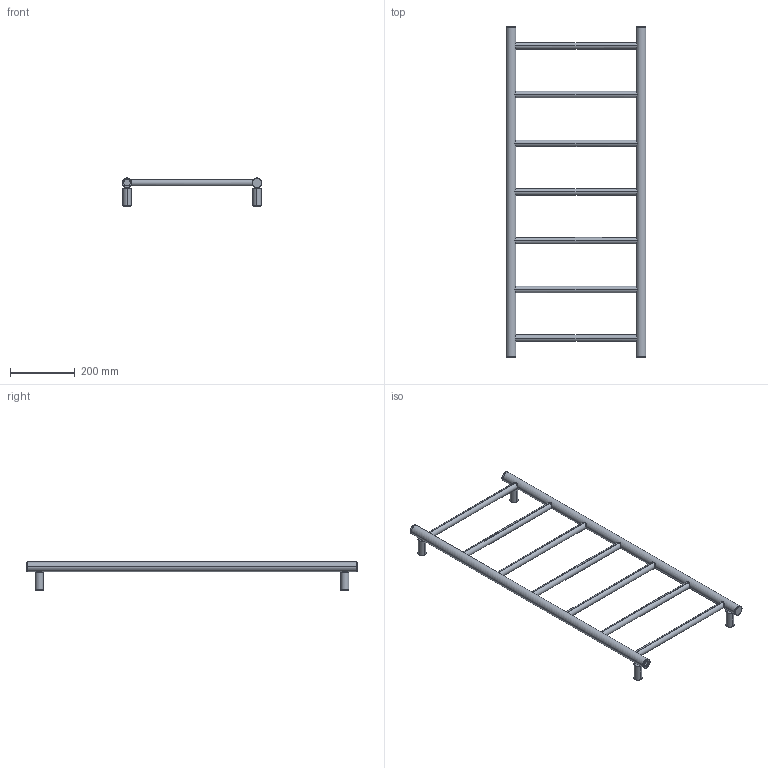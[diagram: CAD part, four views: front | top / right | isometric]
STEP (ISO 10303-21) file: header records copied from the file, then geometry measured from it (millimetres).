
FILE_DESCRIPTION (( 'STEP AP203' ), '1' );
FILE_NAME ('DIN07430.STEP', '2026-03-03T16:22:20', ( '' ), ( '' ), 'SwSTEP 2.0', 'SolidWorks 2025', '' );
FILE_SCHEMA (( 'CONFIG_CONTROL_DESIGN' ));
Length unit declared in the file: millimetre
Products named in the file (4): SUPPORTO DINAMO STEEL; DIN07430; DINAMO STEEL COLLETTORE_1016; DINAMO STEEL TRAVERSINO
Assembly tree (13 placements, depth 2):
  DIN07430
    DINAMO STEEL TRAVERSINO  x7
    DINAMO STEEL COLLETTORE_1016  x2
    SUPPORTO DINAMO STEEL  x4
Bounding box: 430 x 1016 x 87 mm (x, y, z)
Volume: 665424.8 mm3; surface area: 690919.4 mm2
Topology: 13 solids, 13 shells, 190 faces, 508 edges, 328 vertices
Faces by surface type: cylinder 126, plane 32, cone 24, torus 8
Entity records: 4597 total; most frequent: CARTESIAN_POINT 2336, ORIENTED_EDGE 358, DIRECTION 301, EDGE_CURVE 179, AXIS2_PLACEMENT_3D 119, VERTEX_POINT 116, B_SPLINE_CURVE_WITH_KNOTS 72, EDGE_LOOP 71
